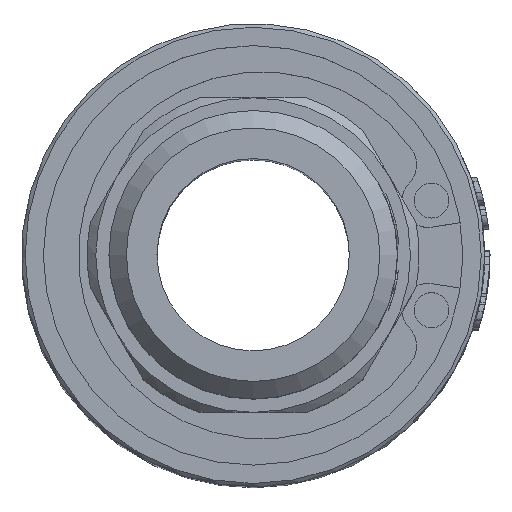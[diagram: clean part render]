
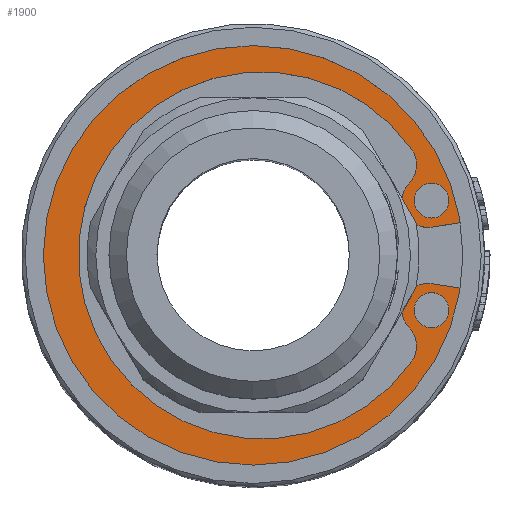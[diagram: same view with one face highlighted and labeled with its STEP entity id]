
A CAD part, top view. The second image highlights one B-rep face of the part: STEP entity #1900.
In plain terms, the highlighted planar face has unit normal (0, 0, 1).
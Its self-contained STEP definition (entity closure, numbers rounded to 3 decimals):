
#210=FACE_BOUND('',#5972,.T.);
#211=FACE_BOUND('',#5973,.T.);
#212=FACE_BOUND('',#5974,.T.);
#307=CIRCLE('',#21590,12.6);
#332=CIRCLE('',#21633,1.5);
#333=CIRCLE('',#21635,1.5);
#334=CIRCLE('',#21637,0.75);
#335=CIRCLE('',#21640,0.75);
#336=CIRCLE('',#21642,1.5);
#337=CIRCLE('',#21644,1.5);
#338=CIRCLE('',#21647,10.5);
#339=CIRCLE('',#21649,1.);
#340=CIRCLE('',#21650,1.);
#710=PLANE('',#21651);
#1036=LINE('',#40839,#3751);
#1041=LINE('',#40855,#3756);
#1900=ADVANCED_FACE('',(#210,#211,#212),#710,.T.);
#3751=VECTOR('',#23244,1.);
#3756=VECTOR('',#23263,1.);
#5972=EDGE_LOOP('',(#10159,#10160,#10161,#10162,#10163,#10164,#10165,#10166,
#10167,#10168));
#5973=EDGE_LOOP('',(#10169));
#5974=EDGE_LOOP('',(#10170));
#10159=ORIENTED_EDGE('',*,*,#17113,.T.);
#10160=ORIENTED_EDGE('',*,*,#17068,.F.);
#10161=ORIENTED_EDGE('',*,*,#17117,.F.);
#10162=ORIENTED_EDGE('',*,*,#17123,.T.);
#10163=ORIENTED_EDGE('',*,*,#17121,.F.);
#10164=ORIENTED_EDGE('',*,*,#17119,.F.);
#10165=ORIENTED_EDGE('',*,*,#17124,.F.);
#10166=ORIENTED_EDGE('',*,*,#17109,.T.);
#10167=ORIENTED_EDGE('',*,*,#17111,.T.);
#10168=ORIENTED_EDGE('',*,*,#17115,.F.);
#10169=ORIENTED_EDGE('',*,*,#17125,.F.);
#10170=ORIENTED_EDGE('',*,*,#17126,.T.);
#14203=VERTEX_POINT('',#40721);
#14205=VERTEX_POINT('',#40724);
#14237=VERTEX_POINT('',#40826);
#14238=VERTEX_POINT('',#40828);
#14239=VERTEX_POINT('',#40832);
#14240=VERTEX_POINT('',#40836);
#14241=VERTEX_POINT('',#40842);
#14242=VERTEX_POINT('',#40846);
#14243=VERTEX_POINT('',#40848);
#14244=VERTEX_POINT('',#40852);
#14245=VERTEX_POINT('',#40860);
#14246=VERTEX_POINT('',#40862);
#17068=EDGE_CURVE('',#14203,#14205,#307,.T.);
#17109=EDGE_CURVE('',#14238,#14237,#332,.T.);
#17111=EDGE_CURVE('',#14237,#14239,#333,.T.);
#17113=EDGE_CURVE('',#14240,#14205,#334,.T.);
#17115=EDGE_CURVE('',#14240,#14239,#1036,.T.);
#17117=EDGE_CURVE('',#14241,#14203,#335,.T.);
#17119=EDGE_CURVE('',#14242,#14243,#336,.T.);
#17121=EDGE_CURVE('',#14243,#14244,#337,.T.);
#17123=EDGE_CURVE('',#14241,#14244,#1041,.T.);
#17124=EDGE_CURVE('',#14238,#14242,#338,.T.);
#17125=EDGE_CURVE('',#14245,#14245,#339,.T.);
#17126=EDGE_CURVE('',#14246,#14246,#340,.T.);
#21590=AXIS2_PLACEMENT_3D('',#40723,#23131,#23132);
#21633=AXIS2_PLACEMENT_3D('',#40827,#23229,#23230);
#21635=AXIS2_PLACEMENT_3D('',#40831,#23234,#23235);
#21637=AXIS2_PLACEMENT_3D('',#40835,#23239,#23240);
#21640=AXIS2_PLACEMENT_3D('',#40843,#23248,#23249);
#21642=AXIS2_PLACEMENT_3D('',#40847,#23253,#23254);
#21644=AXIS2_PLACEMENT_3D('',#40851,#23258,#23259);
#21647=AXIS2_PLACEMENT_3D('',#40857,#23266,#23267);
#21649=AXIS2_PLACEMENT_3D('',#40859,#23270,#23271);
#21650=AXIS2_PLACEMENT_3D('',#40861,#23272,#23273);
#21651=AXIS2_PLACEMENT_3D('',#40863,#23274,#23275);
#23131=DIRECTION('',(0.,0.,-1.));
#23132=DIRECTION('',(1.,0.,0.));
#23229=DIRECTION('',(0.,0.,-1.));
#23230=DIRECTION('',(1.,0.,0.));
#23234=DIRECTION('',(0.,0.,1.));
#23235=DIRECTION('',(1.,0.,0.));
#23239=DIRECTION('',(0.,0.,1.));
#23240=DIRECTION('',(1.,0.,0.));
#23244=DIRECTION('',(-0.988,-0.156,0.));
#23248=DIRECTION('',(0.,0.,-1.));
#23249=DIRECTION('',(1.,0.,0.));
#23253=DIRECTION('',(0.,0.,1.));
#23254=DIRECTION('',(1.,0.,0.));
#23258=DIRECTION('',(0.,0.,-1.));
#23259=DIRECTION('',(1.,0.,0.));
#23263=DIRECTION('',(-0.988,0.156,0.));
#23266=DIRECTION('',(0.,0.,1.));
#23267=DIRECTION('',(1.,0.,0.));
#23270=DIRECTION('',(0.,0.,1.));
#23271=DIRECTION('',(1.,0.,0.));
#23272=DIRECTION('',(0.,0.,-1.));
#23273=DIRECTION('',(1.,0.,0.));
#23274=DIRECTION('',(0.,0.,1.));
#23275=DIRECTION('',(-1.,0.,0.));
#40721=CARTESIAN_POINT('',(12.295,-2.755,34.7));
#40723=CARTESIAN_POINT('',(0.,0.,34.7));
#40724=CARTESIAN_POINT('',(12.295,2.755,34.7));
#40826=CARTESIAN_POINT('',(8.929,4.147,34.7));
#40827=CARTESIAN_POINT('',(7.852,5.191,34.7));
#40828=CARTESIAN_POINT('',(9.077,6.057,34.7));
#40831=CARTESIAN_POINT('',(10.006,3.104,34.7));
#40832=CARTESIAN_POINT('',(10.241,1.622,34.7));
#40835=CARTESIAN_POINT('',(11.563,2.591,34.7));
#40836=CARTESIAN_POINT('',(11.681,1.85,34.7));
#40839=CARTESIAN_POINT('',(0.,0.,34.7));
#40842=CARTESIAN_POINT('',(11.681,-1.85,34.7));
#40843=CARTESIAN_POINT('',(11.563,-2.591,34.7));
#40846=CARTESIAN_POINT('',(9.077,-6.057,34.7));
#40847=CARTESIAN_POINT('',(7.852,-5.191,34.7));
#40848=CARTESIAN_POINT('',(8.929,-4.147,34.7));
#40851=CARTESIAN_POINT('',(10.006,-3.104,34.7));
#40852=CARTESIAN_POINT('',(10.241,-1.622,34.7));
#40855=CARTESIAN_POINT('',(0.,0.,34.7));
#40857=CARTESIAN_POINT('',(0.5,0.,34.7));
#40859=CARTESIAN_POINT('',(10.204,3.135,34.7));
#40860=CARTESIAN_POINT('',(11.204,3.135,34.7));
#40861=CARTESIAN_POINT('',(10.204,-3.135,34.7));
#40862=CARTESIAN_POINT('',(11.204,-3.135,34.7));
#40863=CARTESIAN_POINT('',(0.,0.,34.7));
